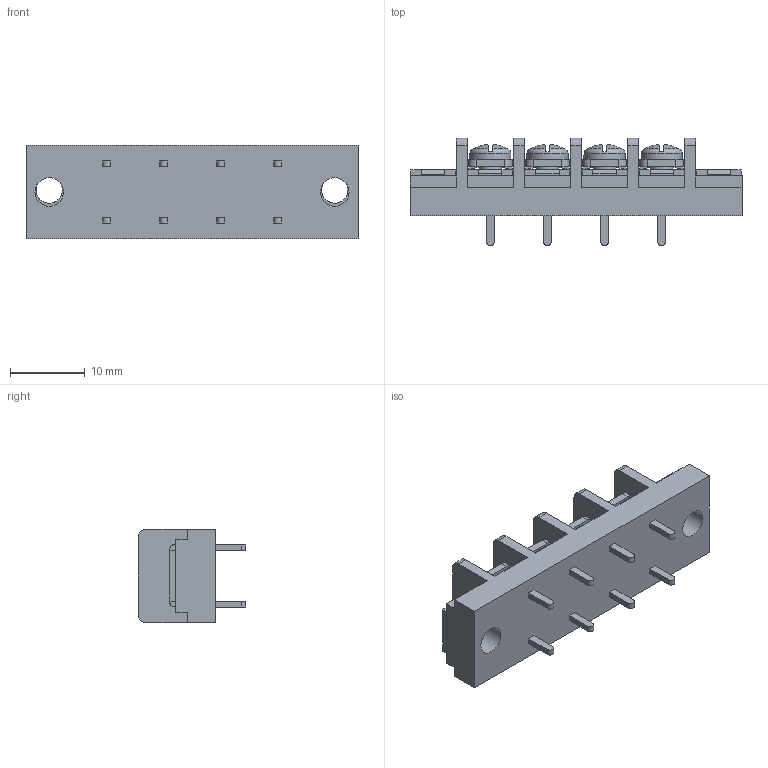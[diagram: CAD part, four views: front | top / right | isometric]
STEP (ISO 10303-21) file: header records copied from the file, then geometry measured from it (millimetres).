
FILE_DESCRIPTION(/* description */ ('Alibre Inc.'),/* implementation_level */ '2;1');
FILE_NAME(/* name */ 'export0',/* time_stamp */ '2015-10-26T18:27:23+09:00',/* author */ (''),/* organization */ (''),/* preprocessor_version */ 'ST-DEVELOPER v14',/* originating_system */ 'Alibre',/* authorisation */ '');
FILE_SCHEMA (('CONFIG_CONTROL_DESIGN'));
Length unit declared in the file: centimetre
Products named in the file (1): ID_1
Bounding box: 44.3 x 14.3 x 12.5 mm (x, y, z)
Volume: 3646.9 mm3; surface area: 3409.1 mm2
Topology: 1 solids, 17 shells, 840 faces, 2248 edges, 1484 vertices
Faces by surface type: plane 646, bspline 104, cylinder 58, cone 16, torus 8, sphere 8
Full cylindrical faces by diameter (mm): 3 x4, 3.5 x2, 3.8 x2, 5.5 x4
Entity records: 24889 total; most frequent: CARTESIAN_POINT 5593, ORIENTED_EDGE 4432, DIRECTION 2902, EDGE_CURVE 2216, VECTOR 1648, LINE 1648, VERTEX_POINT 1472, AXIS2_PLACEMENT_3D 921
